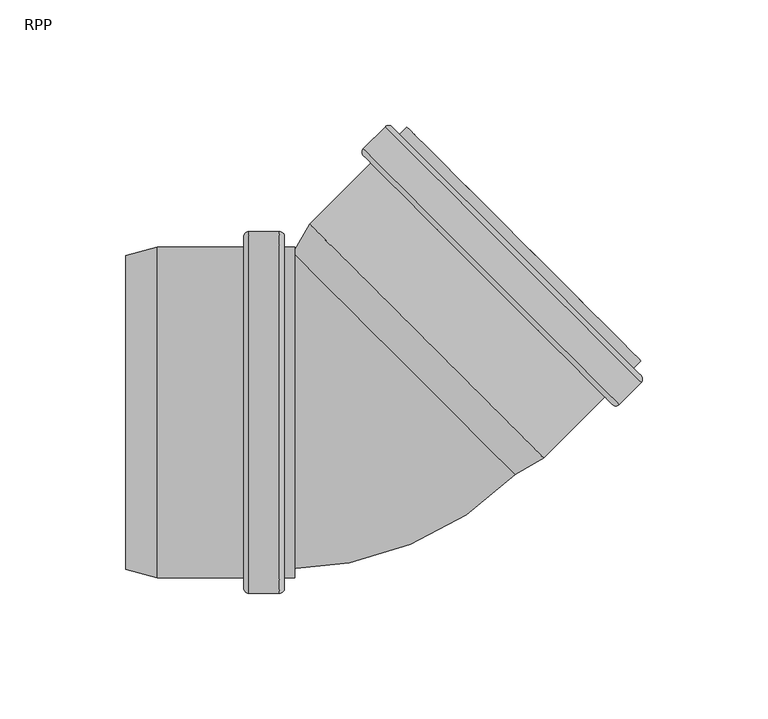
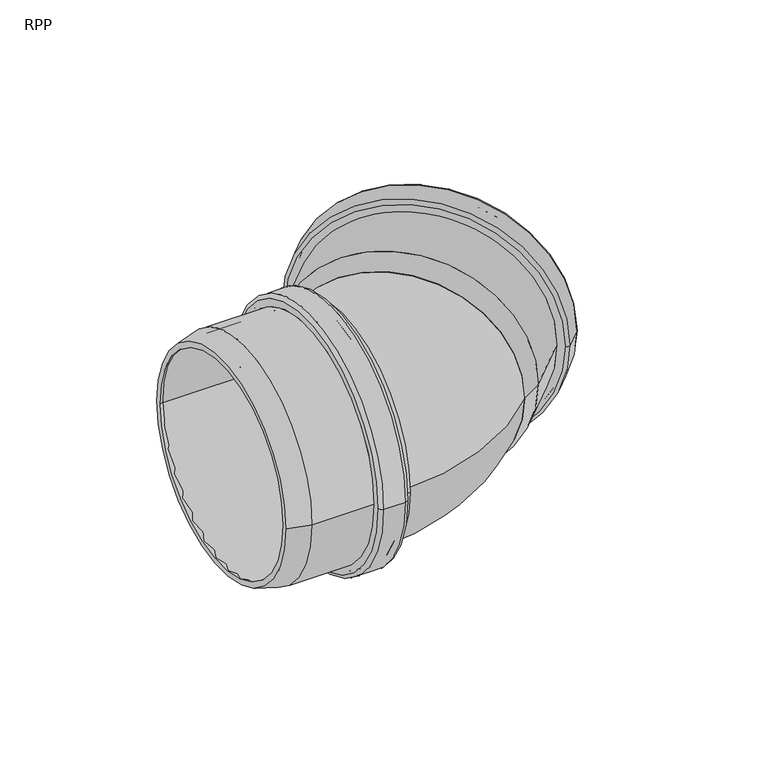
"""IFC4 building model written with IfcOpenShell, lengths in millimetres: pipe fitting geometry, RAUPIANO PLUS Bend : RPP."""

from ifc_helpers import new_model, si_unit, point, frame, origin, place, context, project, spatial, polyline, circle_curve, ellipse_curve, trimmed, source, transform, mapped, element, save
from ifc_brep_helpers import plane_surface, cylinder_surface, revolved_surface, advanced_brep


def rpp_3f5632bd(model_context):
    return source(origin(), model_context, "Body", "AdvancedBrep", [
        advanced_brep(
        [(-41.3452019, -62.8, 0.0), (-41.3452019, 62.8, 0.0), (-78.4481064, 62.8, 0.0), (-78.4481064, -62.8, 0.0), (-40.8452019, -69.0, 0.0), (-40.8452019, 69.0, 0.0), (-41.3452019, 68.5, 0.0), (-41.3452019, -68.5, 0.0), (-31.8452019, -69.0, 0.0), (-31.8452019, 69.0, 0.0), (-31.3452019, -68.5, 0.0), (-31.3452019, 68.5, 0.0), (-24.1452019, -62.8, 0.0), (-24.1452019, 62.8, 0.0), (-31.3452019, 62.8, 0.0), (-31.3452019, -62.8, 0.0), (-28.2452019, -65.9, 0.0), (-28.2452019, 65.9, 0.0), (-24.1452019, 65.9, 0.0), (-24.1452019, -65.9, 0.0), (-30.2452019, -72.1, 0.0), (-30.2452019, 72.1, 0.0), (-28.2452019, 70.1, 0.0), (-28.2452019, -70.1, 0.0), (-42.4452019, -72.1, 0.0), (-42.4452019, 72.1, 0.0), (-44.4452019, -70.1, 0.0), (-44.4452019, 70.1, 0.0), (-78.8562292, -65.9, 0.0), (-78.8562292, 65.9, 0.0), (-44.4452019, 65.9, 0.0), (-44.4452019, -65.9, 0.0), (-91.5452019, -62.5, 0.0), (-91.5452019, 62.5, 0.0), (-91.5452019, 59.2906438, 0.0), (-91.5452019, -59.2906438, 0.0)],
        [
            (0, 1, circle_curve(frame((-41.3452019, 0.0, 0.0), z_axis=(1.0, 0.0, 0.0), x_axis=(0.0, 1.0, 0.0)), 62.8)),
            (1, 2),
            (2, 3, circle_curve(frame((-78.4481064, 0.0, 0.0), z_axis=(-1.0, 0.0, 0.0), x_axis=(0.0, 1.0, 0.0)), 62.8)),
            (3, 0),
            (4, 5, circle_curve(frame((-40.8452019, 0.0, 0.0), z_axis=(1.0, 0.0, 0.0), x_axis=(0.0, 1.0, 0.0)), 69.0)),
            (5, 6, circle_curve(frame((-40.8452019, 68.5, 0.0), z_axis=(0.0, 0.0, 1.0), x_axis=(0.0, -1.0, 0.0)), 0.5)),
            (6, 7, circle_curve(frame((-41.3452019, 0.0, 0.0), z_axis=(-1.0, 0.0, 0.0), x_axis=(0.0, 1.0, 0.0)), 68.5)),
            (7, 4, circle_curve(frame((-40.8452019, -68.5, 0.0), z_axis=(0.0, 0.0, 1.0), x_axis=(0.0, 1.0, 0.0)), 0.5)),
            (8, 9, circle_curve(frame((-31.8452019, 0.0, 0.0), z_axis=(1.0, 0.0, 0.0), x_axis=(0.0, 1.0, 0.0)), 69.0)),
            (9, 5),
            (4, 8),
            (10, 11, circle_curve(frame((-31.3452019, 0.0, 0.0), z_axis=(1.0, 0.0, 0.0), x_axis=(0.0, 1.0, 0.0)), 68.5)),
            (11, 9, circle_curve(frame((-31.8452019, 68.5, 0.0), z_axis=(0.0, 0.0, 1.0), x_axis=(0.0, -1.0, 0.0)), 0.5)),
            (8, 10, circle_curve(frame((-31.8452019, -68.5, 0.0), z_axis=(0.0, 0.0, 1.0), x_axis=(0.0, 1.0, 0.0)), 0.5)),
            (12, 13, circle_curve(frame((-24.1452019, 0.0, 0.0), z_axis=(1.0, 0.0, 0.0), x_axis=(0.0, 1.0, 0.0)), 62.8)),
            (13, 14),
            (14, 15, circle_curve(frame((-31.3452019, 0.0, 0.0), z_axis=(-1.0, 0.0, 0.0), x_axis=(0.0, 1.0, 0.0)), 62.8)),
            (15, 12),
            (16, 17, circle_curve(frame((-28.2452019, 0.0, 0.0), z_axis=(1.0, 0.0, 0.0), x_axis=(0.0, 1.0, 0.0)), 65.9)),
            (17, 18),
            (18, 19, circle_curve(frame((-24.1452019, 0.0, 0.0), z_axis=(-1.0, 0.0, 0.0), x_axis=(0.0, 1.0, 0.0)), 65.9)),
            (19, 16),
            (20, 21, circle_curve(frame((-30.2452019, 0.0, 0.0), z_axis=(1.0, 0.0, 0.0), x_axis=(0.0, 1.0, 0.0)), 72.1)),
            (21, 22, circle_curve(frame((-30.2452019, 70.1, 0.0), z_axis=(0.0, 0.0, -1.0), x_axis=(0.0, -1.0, 0.0)), 2.0)),
            (22, 23, circle_curve(frame((-28.2452019, 0.0, 0.0), z_axis=(-1.0, 0.0, 0.0), x_axis=(0.0, 1.0, 0.0)), 70.1)),
            (23, 20, circle_curve(frame((-30.2452019, -70.1, 0.0), z_axis=(0.0, 0.0, -1.0), x_axis=(0.0, 1.0, 0.0)), 2.0)),
            (24, 25, circle_curve(frame((-42.4452019, 0.0, 0.0), z_axis=(1.0, 0.0, 0.0), x_axis=(0.0, 1.0, 0.0)), 72.1)),
            (25, 21),
            (20, 24),
            (26, 27, circle_curve(frame((-44.4452019, 0.0, 0.0), z_axis=(1.0, 0.0, 0.0), x_axis=(0.0, 1.0, 0.0)), 70.1)),
            (27, 25, circle_curve(frame((-42.4452019, 70.1, 0.0), z_axis=(0.0, 0.0, -1.0), x_axis=(0.0, -1.0, 0.0)), 2.0)),
            (24, 26, circle_curve(frame((-42.4452019, -70.1, 0.0), z_axis=(0.0, 0.0, -1.0), x_axis=(0.0, 1.0, 0.0)), 2.0)),
            (28, 29, circle_curve(frame((-78.8562292, 0.0, 0.0), z_axis=(1.0, 0.0, 0.0), x_axis=(0.0, 1.0, 0.0)), 65.9)),
            (29, 30),
            (30, 31, circle_curve(frame((-44.4452019, 0.0, 0.0), z_axis=(-1.0, 0.0, 0.0), x_axis=(0.0, 1.0, 0.0)), 65.9)),
            (31, 28),
            (32, 33, circle_curve(frame((-91.5452019, 0.0, 0.0), z_axis=(1.0, 0.0, 0.0), x_axis=(0.0, 1.0, 0.0)), 62.5)),
            (33, 29),
            (28, 32),
            (2, 34),
            (34, 35, circle_curve(frame((-91.5452019, 0.0, 0.0), z_axis=(-1.0, 0.0, 0.0), x_axis=(0.0, 1.0, 0.0)), 59.2906438)),
            (35, 3),
            (1, 0, circle_curve(frame((-41.3452019, 0.0, 0.0), z_axis=(1.0, 0.0, 0.0), x_axis=(0.0, -1.0, 0.0)), 62.8)),
            (3, 2, circle_curve(frame((-78.4481064, 0.0, 0.0), z_axis=(-1.0, 0.0, 0.0), x_axis=(0.0, -1.0, 0.0)), 62.8)),
            (6, 7, circle_curve(frame((-41.3452019, 0.0, 0.0), z_axis=(1.0, 0.0, 0.0), x_axis=(0.0, -1.0, 0.0)), 68.5)),
            (5, 4, circle_curve(frame((-40.8452019, 0.0, 0.0), z_axis=(1.0, 0.0, 0.0), x_axis=(0.0, -1.0, 0.0)), 69.0)),
            (9, 8, circle_curve(frame((-31.8452019, 0.0, 0.0), z_axis=(1.0, 0.0, 0.0), x_axis=(0.0, -1.0, 0.0)), 69.0)),
            (11, 10, circle_curve(frame((-31.3452019, 0.0, 0.0), z_axis=(1.0, 0.0, 0.0), x_axis=(0.0, -1.0, 0.0)), 68.5)),
            (14, 15, circle_curve(frame((-31.3452019, 0.0, 0.0), z_axis=(1.0, 0.0, 0.0), x_axis=(0.0, -1.0, 0.0)), 62.8)),
            (13, 12, circle_curve(frame((-24.1452019, 0.0, 0.0), z_axis=(1.0, 0.0, 0.0), x_axis=(0.0, -1.0, 0.0)), 62.8)),
            (18, 19, circle_curve(frame((-24.1452019, 0.0, 0.0), z_axis=(1.0, 0.0, 0.0), x_axis=(0.0, -1.0, 0.0)), 65.9)),
            (17, 16, circle_curve(frame((-28.2452019, 0.0, 0.0), z_axis=(1.0, 0.0, 0.0), x_axis=(0.0, -1.0, 0.0)), 65.9)),
            (22, 23, circle_curve(frame((-28.2452019, 0.0, 0.0), z_axis=(1.0, 0.0, 0.0), x_axis=(0.0, -1.0, 0.0)), 70.1)),
            (21, 20, circle_curve(frame((-30.2452019, 0.0, 0.0), z_axis=(1.0, 0.0, 0.0), x_axis=(0.0, -1.0, 0.0)), 72.1)),
            (25, 24, circle_curve(frame((-42.4452019, 0.0, 0.0), z_axis=(1.0, 0.0, 0.0), x_axis=(0.0, -1.0, 0.0)), 72.1)),
            (27, 26, circle_curve(frame((-44.4452019, 0.0, 0.0), z_axis=(1.0, 0.0, 0.0), x_axis=(0.0, -1.0, 0.0)), 70.1)),
            (30, 31, circle_curve(frame((-44.4452019, 0.0, 0.0), z_axis=(1.0, 0.0, 0.0), x_axis=(0.0, -1.0, 0.0)), 65.9)),
            (29, 28, circle_curve(frame((-78.8562292, 0.0, 0.0), z_axis=(1.0, 0.0, 0.0), x_axis=(0.0, -1.0, 0.0)), 65.9)),
            (33, 32, circle_curve(frame((-91.5452019, 0.0, 0.0), z_axis=(1.0, 0.0, 0.0), x_axis=(0.0, -1.0, 0.0)), 62.5)),
            (34, 35, circle_curve(frame((-91.5452019, 0.0, 0.0), z_axis=(1.0, 0.0, 0.0), x_axis=(0.0, -1.0, 0.0)), 59.2906438)),
        ],
        [
            revolved_surface(polyline([(-78.4481064, 62.8, 0.0), (-41.3452019, 62.8, 0.0)]), (-91.5452019, 0.0, 0.0), (-1.0, 0.0, 0.0)),
            revolved_surface(trimmed(ellipse_curve(frame((-40.8452019, 68.5, 0.0), z_axis=(0.0, 0.0, -1.0), x_axis=(0.0, -1.0, 0.0)), 0.5, 0.5), [point((-41.3452019, 68.5, 0.0))], [point((-40.8452019, 69.0, 0.0))], True, "CARTESIAN"), (-91.5452019, 0.0, 0.0), (-1.0, 0.0, 0.0)),
            revolved_surface(polyline([(-40.8452019, 69.0, 0.0), (-31.8452019, 69.0, 0.0)]), (-91.5452019, 0.0, 0.0), (-1.0, 0.0, 0.0)),
            revolved_surface(trimmed(ellipse_curve(frame((-31.8452019, 68.5, 0.0), z_axis=(0.0, 0.0, -1.0), x_axis=(0.0, -1.0, 0.0)), 0.5, 0.5), [point((-31.8452019, 69.0, 0.0))], [point((-31.3452019, 68.5, 0.0))], True, "CARTESIAN"), (-91.5452019, 0.0, 0.0), (-1.0, 0.0, 0.0)),
            revolved_surface(polyline([(-31.3452019, 62.8, 0.0), (-24.145201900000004, 62.8, 0.0)]), (-91.5452019, 0.0, 0.0), (-1.0, 0.0, 0.0)),
            cylinder_surface(frame((-91.5452019, 0.0, 0.0), z_axis=(-1.0, 0.0, 0.0), x_axis=(0.0, 1.0, 0.0)), 65.9),
            revolved_surface(trimmed(ellipse_curve(frame((-30.2452019, 70.1, 0.0), z_axis=(0.0, 0.0, 1.0), x_axis=(0.0, -1.0, 0.0)), 2.0, 2.0), [point((-28.2452019, 70.1, 0.0))], [point((-30.2452019, 72.1, 0.0))], True, "CARTESIAN"), (-91.5452019, 0.0, 0.0), (-1.0, 0.0, 0.0)),
            cylinder_surface(frame((-91.5452019, 0.0, 0.0), z_axis=(-1.0, 0.0, 0.0), x_axis=(0.0, 1.0, 0.0)), 72.1),
            revolved_surface(trimmed(ellipse_curve(frame((-42.4452019, 70.1, 0.0), z_axis=(0.0, 0.0, 1.0), x_axis=(0.0, -1.0, 0.0)), 2.0, 2.0), [point((-42.4452019, 72.1, 0.0))], [point((-44.4452019, 70.1, 0.0))], True, "CARTESIAN"), (-91.5452019, 0.0, 0.0), (-1.0, 0.0, 0.0)),
            revolved_surface(polyline([(-78.8562292, 65.9, 0.0), (-91.5452019, 62.5, 0.0)]), (-91.5452019, 0.0, 0.0), (-1.0, 0.0, 0.0)),
            revolved_surface(polyline([(-91.5452019, 59.2906438, 0.0), (-78.4481064, 62.8, 0.0)]), (-91.5452019, 0.0, 0.0), (-1.0, 0.0, 0.0)),
            revolved_surface(polyline([(-78.4481064, -62.8, 0.0), (-41.3452019, -62.8, 0.0)]), (-91.5452019, 0.0, 0.0), (-1.0, 0.0, 0.0)),
            plane_surface(frame((-41.3452019, 0.0, 0.0), z_axis=(1.0, 0.0, 0.0), x_axis=(0.0, -1.0, 0.0))),
            revolved_surface(trimmed(ellipse_curve(frame((-40.8452019, -68.5, 0.0), z_axis=(0.0, 0.0, 1.0), x_axis=(0.0, 1.0, 0.0)), 0.5, 0.5), [point((-41.3452019, -68.5, 0.0))], [point((-40.8452019, -69.0, 0.0))], True, "CARTESIAN"), (-91.5452019, 0.0, 0.0), (-1.0, 0.0, 0.0)),
            revolved_surface(polyline([(-40.8452019, -69.0, 0.0), (-31.8452019, -69.0, 0.0)]), (-91.5452019, 0.0, 0.0), (-1.0, 0.0, 0.0)),
            revolved_surface(trimmed(ellipse_curve(frame((-31.8452019, -68.5, 0.0), z_axis=(0.0, 0.0, 1.0), x_axis=(0.0, 1.0, 0.0)), 0.5, 0.5), [point((-31.8452019, -69.0, 0.0))], [point((-31.3452019, -68.5, 0.0))], True, "CARTESIAN"), (-91.5452019, 0.0, 0.0), (-1.0, 0.0, 0.0)),
            plane_surface(frame((-31.3452019, 0.0, 0.0), z_axis=(-1.0, 0.0, 0.0), x_axis=(0.0, -1.0, 0.0))),
            revolved_surface(polyline([(-31.3452019, -62.8, 0.0), (-24.145201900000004, -62.8, 0.0)]), (-91.5452019, 0.0, 0.0), (-1.0, 0.0, 0.0)),
            plane_surface(frame((-24.1452019, 0.0, 0.0), z_axis=(1.0, 0.0, 0.0), x_axis=(0.0, -1.0, 0.0))),
            cylinder_surface(frame((-91.5452019, 0.0, 0.0), z_axis=(-1.0, 0.0, 0.0), x_axis=(0.0, -1.0, 0.0)), 65.9),
            plane_surface(frame((-28.2452019, 0.0, 0.0), z_axis=(1.0, 0.0, 0.0), x_axis=(0.0, -1.0, 0.0))),
            revolved_surface(trimmed(ellipse_curve(frame((-30.2452019, -70.1, 0.0), z_axis=(0.0, 0.0, -1.0), x_axis=(0.0, 1.0, 0.0)), 2.0, 2.0), [point((-28.2452019, -70.1, 0.0))], [point((-30.2452019, -72.1, 0.0))], True, "CARTESIAN"), (-91.5452019, 0.0, 0.0), (-1.0, 0.0, 0.0)),
            cylinder_surface(frame((-91.5452019, 0.0, 0.0), z_axis=(-1.0, 0.0, 0.0), x_axis=(0.0, -1.0, 0.0)), 72.1),
            revolved_surface(trimmed(ellipse_curve(frame((-42.4452019, -70.1, 0.0), z_axis=(0.0, 0.0, -1.0), x_axis=(0.0, 1.0, 0.0)), 2.0, 2.0), [point((-42.4452019, -72.1, 0.0))], [point((-44.4452019, -70.1, 0.0))], True, "CARTESIAN"), (-91.5452019, 0.0, 0.0), (-1.0, 0.0, 0.0)),
            plane_surface(frame((-44.4452019, 0.0, 0.0), z_axis=(-1.0, 0.0, 0.0), x_axis=(0.0, -1.0, 0.0))),
            revolved_surface(polyline([(-78.8562292, -65.9, 0.0), (-91.5452019, -62.5, 0.0)]), (-91.5452019, 0.0, 0.0), (-1.0, 0.0, 0.0)),
            plane_surface(frame((-91.5452019, 0.0, 0.0), z_axis=(-1.0, 0.0, 0.0), x_axis=(0.0, -1.0, 0.0))),
            revolved_surface(polyline([(-91.5452019, -59.2906438, 0.0), (-78.4481064, -62.8, 0.0)]), (-91.5452019, 0.0, 0.0), (-1.0, 0.0, 0.0)),
        ],
        [
            (0, [[1, 2, 3, 4]]),
            (1, [[5, 6, 7, 8]]),
            (2, [[9, 10, -5, 11]]),
            (3, [[12, 13, -9, 14]]),
            (4, [[15, 16, 17, 18]]),
            (5, [[19, 20, 21, 22]]),
            (6, [[23, 24, 25, 26]]),
            (7, [[27, 28, -23, 29]]),
            (8, [[30, 31, -27, 32]]),
            (5, [[33, 34, 35, 36]]),
            (9, [[37, 38, -33, 39]]),
            (10, [[-3, 40, 41, 42]]),
            (11, [[43, -4, 44, -2]]),
            (12, [[45, -7], [-43, -1]]),
            (13, [[46, -8, -45, -6]]),
            (14, [[47, -11, -46, -10]]),
            (15, [[48, -14, -47, -13]]),
            (16, [[-48, -12], [49, -17]]),
            (17, [[50, -18, -49, -16]]),
            (18, [[51, -21], [-50, -15]]),
            (19, [[52, -22, -51, -20]]),
            (20, [[53, -25], [-52, -19]]),
            (21, [[54, -26, -53, -24]]),
            (22, [[55, -29, -54, -28]]),
            (23, [[56, -32, -55, -31]]),
            (24, [[-56, -30], [57, -35]]),
            (19, [[58, -36, -57, -34]]),
            (25, [[59, -39, -58, -38]]),
            (26, [[-59, -37], [60, -41]]),
            (27, [[-44, -42, -60, -40]]),
        ],
    ),
        advanced_brep(
        [(61.4022154, -22.4474173, 0.0), (-22.4474173, 61.4022154, 0.0), (-15.6678618, 73.1447499, 0.0), (73.1447499, -15.6678618, 0.0), (75.0481946, -18.1484792, 0.0), (-18.1484792, 75.0481946, 0.0), (-24.7167748, 63.6715729, 0.0), (63.6715729, -24.7167748, 0.0), (99.3804653, 6.1837916, 0.0), (6.1837916, 99.3804653, 0.0), (113.8054437, 11.8406458, 0.0), (11.8406458, 113.8054437, 0.0), (3.2139431, 105.1787409, 0.0), (105.1787409, 3.2139431, 0.0), (113.734733, 20.5380592, 0.0), (20.5380592, 113.734733, 0.0), (17.6389214, 110.8355952, 0.0), (110.8355952, 17.6389214, 0.0), (106.4515331, 17.6389214, 0.0), (17.6389214, 106.4515331, 0.0), (22.7300902, 111.542702, 0.0), (111.542702, 22.7300902, 0.0), (104.1180808, 6.537345, 0.0), (6.537345, 104.1180808, 0.0), (12.901306, 110.4820418, 0.0), (110.4820418, 12.901306, 0.0), (10.5678536, 99.3804653, 0.0), (99.3804653, 10.5678536, 0.0), (3.2139431, 102.3503138, 0.0), (102.3503138, 3.2139431, 0.0), (113.8054437, 14.6690729, 0.0), (14.6690729, 113.8054437, 0.0), (13.6084128, 110.4820418, 0.0), (110.4820418, 13.6084128, 0.0), (103.410974, 6.537345, 0.0), (6.537345, 103.410974, 0.0)],
        [
            (0, 1, circle_curve(frame((19.4773991, 19.4773991, 0.0), z_axis=(-0.7071067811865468, -0.7071067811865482, 0.0), x_axis=(-0.7071067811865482, 0.7071067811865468, 0.0)), 59.2906438)),
            (1, 2),
            (2, 3, circle_curve(frame((28.7384441, 28.7384441, 0.0), z_axis=(0.7071067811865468, 0.7071067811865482, 0.0), x_axis=(-0.7071067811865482, 0.7071067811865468, 0.0)), 62.8)),
            (3, 0),
            (4, 5, circle_curve(frame((28.4498577, 28.4498577, 0.0), z_axis=(-0.7071067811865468, -0.7071067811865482, 0.0), x_axis=(-0.7071067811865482, 0.7071067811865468, 0.0)), 65.9)),
            (5, 6),
            (6, 7, circle_curve(frame((19.4773991, 19.4773991, 0.0), z_axis=(0.7071067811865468, 0.7071067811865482, 0.0), x_axis=(-0.7071067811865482, 0.7071067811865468, 0.0)), 62.5)),
            (7, 4),
            (8, 9, circle_curve(frame((52.7821284, 52.7821284, 0.0), z_axis=(-0.7071067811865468, -0.7071067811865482, 0.0), x_axis=(-0.7071067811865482, 0.7071067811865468, 0.0)), 65.9)),
            (9, 5),
            (4, 8),
            (10, 11, circle_curve(frame((62.8230447, 62.8230447, 0.0), z_axis=(-0.7071067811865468, -0.7071067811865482, 0.0), x_axis=(-0.7071067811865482, 0.7071067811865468, 0.0)), 72.1)),
            (11, 12),
            (12, 13, circle_curve(frame((54.196342, 54.196342, 0.0), z_axis=(0.7071067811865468, 0.7071067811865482, 0.0), x_axis=(-0.7071067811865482, 0.7071067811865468, 0.0)), 72.1)),
            (13, 10),
            (14, 15, circle_curve(frame((67.1363961, 67.1363961, 0.0), z_axis=(-0.7071067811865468, -0.7071067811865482, 0.0), x_axis=(-0.7071067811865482, 0.7071067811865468, 0.0)), 65.9)),
            (15, 16),
            (16, 17, circle_curve(frame((64.2372583, 64.2372583, 0.0), z_axis=(0.7071067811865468, 0.7071067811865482, 0.0), x_axis=(-0.7071067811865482, 0.7071067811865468, 0.0)), 65.9)),
            (17, 14),
            (18, 19, circle_curve(frame((62.0452273, 62.0452273, 0.0), z_axis=(-0.7071067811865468, -0.7071067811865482, 0.0), x_axis=(-0.7071067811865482, 0.7071067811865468, 0.0)), 62.8)),
            (19, 20),
            (20, 21, circle_curve(frame((67.1363961, 67.1363961, 0.0), z_axis=(0.7071067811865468, 0.7071067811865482, 0.0), x_axis=(-0.7071067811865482, 0.7071067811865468, 0.0)), 62.8)),
            (21, 18),
            (22, 23, circle_curve(frame((55.3277129, 55.3277129, 0.0), z_axis=(-0.7071067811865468, -0.7071067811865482, 0.0), x_axis=(-0.7071067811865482, 0.7071067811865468, 0.0)), 69.0)),
            (23, 24),
            (24, 25, circle_curve(frame((61.6916739, 61.6916739, 0.0), z_axis=(0.7071067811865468, 0.7071067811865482, 0.0), x_axis=(-0.7071067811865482, 0.7071067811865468, 0.0)), 69.0)),
            (25, 22),
            (2, 26),
            (26, 27, circle_curve(frame((54.9741595, 54.9741595, 0.0), z_axis=(0.7071067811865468, 0.7071067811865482, 0.0), x_axis=(-0.7071067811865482, 0.7071067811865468, 0.0)), 62.8)),
            (27, 3),
            (1, 0, circle_curve(frame((19.4773991, 19.4773991, 0.0), z_axis=(-0.7071067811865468, -0.7071067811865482, 0.0), x_axis=(0.7071067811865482, -0.7071067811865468, 0.0)), 59.2906438)),
            (3, 2, circle_curve(frame((28.7384441, 28.7384441, 0.0), z_axis=(0.7071067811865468, 0.7071067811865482, 0.0), x_axis=(0.7071067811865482, -0.7071067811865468, 0.0)), 62.8)),
            (6, 7, circle_curve(frame((19.4773991, 19.4773991, 0.0), z_axis=(-0.7071067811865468, -0.7071067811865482, 0.0), x_axis=(0.7071067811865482, -0.7071067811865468, 0.0)), 62.5)),
            (5, 4, circle_curve(frame((28.4498577, 28.4498577, 0.0), z_axis=(-0.7071067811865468, -0.7071067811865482, 0.0), x_axis=(0.7071067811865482, -0.7071067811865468, 0.0)), 65.9)),
            (9, 8, circle_curve(frame((52.7821284, 52.7821284, 0.0), z_axis=(-0.7071067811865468, -0.7071067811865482, 0.0), x_axis=(0.7071067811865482, -0.7071067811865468, 0.0)), 65.9)),
            (28, 29, circle_curve(frame((52.7821284, 52.7821284, 0.0), z_axis=(-0.7071067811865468, -0.7071067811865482, 0.0), x_axis=(0.7071067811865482, -0.7071067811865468, 0.0)), 70.1)),
            (29, 28, circle_curve(frame((52.7821284, 52.7821284, 0.0), z_axis=(-0.7071067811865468, -0.7071067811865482, 0.0), x_axis=(-0.7071067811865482, 0.7071067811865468, 0.0)), 70.1)),
            (11, 10, circle_curve(frame((62.8230447, 62.8230447, 0.0), z_axis=(-0.7071067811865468, -0.7071067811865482, 0.0), x_axis=(0.7071067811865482, -0.7071067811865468, 0.0)), 72.1)),
            (13, 12, circle_curve(frame((54.196342, 54.196342, 0.0), z_axis=(0.7071067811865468, 0.7071067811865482, 0.0), x_axis=(0.7071067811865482, -0.7071067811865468, 0.0)), 72.1)),
            (30, 31, circle_curve(frame((64.2372583, 64.2372583, 0.0), z_axis=(0.7071067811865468, 0.7071067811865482, 0.0), x_axis=(0.7071067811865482, -0.7071067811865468, 0.0)), 70.1)),
            (31, 30, circle_curve(frame((64.2372583, 64.2372583, 0.0), z_axis=(0.7071067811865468, 0.7071067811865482, 0.0), x_axis=(-0.7071067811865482, 0.7071067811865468, 0.0)), 70.1)),
            (16, 17, circle_curve(frame((64.2372583, 64.2372583, 0.0), z_axis=(-0.7071067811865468, -0.7071067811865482, 0.0), x_axis=(0.7071067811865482, -0.7071067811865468, 0.0)), 65.9)),
            (15, 14, circle_curve(frame((67.1363961, 67.1363961, 0.0), z_axis=(-0.7071067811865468, -0.7071067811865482, 0.0), x_axis=(0.7071067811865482, -0.7071067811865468, 0.0)), 65.9)),
            (20, 21, circle_curve(frame((67.1363961, 67.1363961, 0.0), z_axis=(-0.7071067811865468, -0.7071067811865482, 0.0), x_axis=(0.7071067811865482, -0.7071067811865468, 0.0)), 62.8)),
            (19, 18, circle_curve(frame((62.0452273, 62.0452273, 0.0), z_axis=(-0.7071067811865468, -0.7071067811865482, 0.0), x_axis=(0.7071067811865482, -0.7071067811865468, 0.0)), 62.8)),
            (32, 33, circle_curve(frame((62.0452273, 62.0452273, 0.0), z_axis=(-0.7071067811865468, -0.7071067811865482, 0.0), x_axis=(0.7071067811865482, -0.7071067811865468, 0.0)), 68.5)),
            (33, 32, circle_curve(frame((62.0452273, 62.0452273, 0.0), z_axis=(-0.7071067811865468, -0.7071067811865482, 0.0), x_axis=(-0.7071067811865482, 0.7071067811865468, 0.0)), 68.5)),
            (23, 22, circle_curve(frame((55.3277129, 55.3277129, 0.0), z_axis=(-0.7071067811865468, -0.7071067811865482, 0.0), x_axis=(0.7071067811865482, -0.7071067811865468, 0.0)), 69.0)),
            (25, 24, circle_curve(frame((61.6916739, 61.6916739, 0.0), z_axis=(0.7071067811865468, 0.7071067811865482, 0.0), x_axis=(0.7071067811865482, -0.7071067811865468, 0.0)), 69.0)),
            (34, 35, circle_curve(frame((54.9741595, 54.9741595, 0.0), z_axis=(0.7071067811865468, 0.7071067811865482, 0.0), x_axis=(0.7071067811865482, -0.7071067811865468, 0.0)), 68.5)),
            (35, 34, circle_curve(frame((54.9741595, 54.9741595, 0.0), z_axis=(0.7071067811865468, 0.7071067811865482, 0.0), x_axis=(-0.7071067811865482, 0.7071067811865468, 0.0)), 68.5)),
            (26, 27, circle_curve(frame((54.9741595, 54.9741595, 0.0), z_axis=(-0.7071067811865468, -0.7071067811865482, 0.0), x_axis=(0.7071067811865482, -0.7071067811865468, 0.0)), 62.8)),
            (12, 28, circle_curve(frame((4.6281566, 103.7645274, 0.0), z_axis=(0.0, 0.0, 1.0), x_axis=(0.7071067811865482, -0.7071067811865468, 0.0)), 2.0)),
            (29, 13, circle_curve(frame((103.7645274, 4.6281566, 0.0), z_axis=(0.0, 0.0, 1.0), x_axis=(-0.7071067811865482, 0.7071067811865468, 0.0)), 2.0)),
            (31, 11, circle_curve(frame((13.2548594, 112.3912301, 0.0), z_axis=(0.0, 0.0, 1.0), x_axis=(0.7071067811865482, -0.7071067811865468, 0.0)), 2.0)),
            (10, 30, circle_curve(frame((112.3912301, 13.2548594, 0.0), z_axis=(0.0, 0.0, 1.0), x_axis=(-0.7071067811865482, 0.7071067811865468, 0.0)), 2.0)),
            (24, 32, circle_curve(frame((13.2548594, 110.1284884, 0.0), z_axis=(0.0, 0.0, -1.0), x_axis=(0.7071067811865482, -0.7071067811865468, 0.0)), 0.5)),
            (33, 25, circle_curve(frame((110.1284884, 13.2548594, 0.0), z_axis=(0.0, 0.0, -1.0), x_axis=(-0.7071067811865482, 0.7071067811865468, 0.0)), 0.5)),
            (35, 23, circle_curve(frame((6.8908983, 103.7645274, 0.0), z_axis=(0.0, 0.0, -1.0), x_axis=(0.7071067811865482, -0.7071067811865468, 0.0)), 0.5)),
            (22, 34, circle_curve(frame((103.7645274, 6.8908983, 0.0), z_axis=(0.0, 0.0, -1.0), x_axis=(-0.7071067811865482, 0.7071067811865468, 0.0)), 0.5)),
        ],
        [
            revolved_surface(polyline([(-15.6678618, 73.1447499, 0.0), (-22.4474173, 61.4022154, 0.0)]), (19.4773991, 19.4773991, 0.0), (0.7071067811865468, 0.7071067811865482, 0.0)),
            revolved_surface(polyline([(-24.7167748, 63.6715729, 0.0), (-18.1484792, 75.0481946, 0.0)]), (19.4773991, 19.4773991, 0.0), (0.7071067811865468, 0.7071067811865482, 0.0)),
            cylinder_surface(frame((19.4773991, 19.4773991, 0.0), z_axis=(0.7071067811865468, 0.7071067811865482, 0.0), x_axis=(-0.7071067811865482, 0.7071067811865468, 0.0)), 65.9),
            cylinder_surface(frame((19.4773991, 19.4773991, 0.0), z_axis=(0.7071067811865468, 0.7071067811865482, 0.0), x_axis=(-0.7071067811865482, 0.7071067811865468, 0.0)), 72.1),
            revolved_surface(polyline([(22.730090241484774, 111.54270195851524, 0.0), (17.638921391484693, 106.45153310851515, 0.0)]), (19.4773991, 19.4773991, 0.0), (0.7071067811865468, 0.7071067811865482, 0.0)),
            revolved_surface(polyline([(12.901305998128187, 110.48204180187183, 0.0), (6.537344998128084, 104.11808080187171, 0.0)]), (19.4773991, 19.4773991, 0.0), (0.7071067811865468, 0.7071067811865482, 0.0)),
            revolved_surface(polyline([(10.567853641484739, 99.38046535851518, 0.0), (-15.66786180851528, 73.14474990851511, 0.0)]), (19.4773991, 19.4773991, 0.0), (0.7071067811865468, 0.7071067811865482, 0.0)),
            revolved_surface(polyline([(73.1447499, -15.6678618, 0.0), (61.4022154, -22.4474173, 0.0)]), (19.4773991, 19.4773991, 0.0), (0.7071067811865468, 0.7071067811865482, 0.0)),
            plane_surface(frame((19.4773991, 19.4773991, 0.0), z_axis=(-0.7071067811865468, -0.7071067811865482, 0.0), x_axis=(0.7071067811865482, -0.7071067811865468, 0.0))),
            revolved_surface(polyline([(63.6715729, -24.7167748, 0.0), (75.0481946, -18.1484792, 0.0)]), (19.4773991, 19.4773991, 0.0), (0.7071067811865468, 0.7071067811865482, 0.0)),
            cylinder_surface(frame((19.4773991, 19.4773991, 0.0), z_axis=(0.7071067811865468, 0.7071067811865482, 0.0), x_axis=(0.7071067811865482, -0.7071067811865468, 0.0)), 65.9),
            plane_surface(frame((52.7821284, 52.7821284, 0.0), z_axis=(-0.7071067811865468, -0.7071067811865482, 0.0), x_axis=(0.7071067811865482, -0.7071067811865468, 0.0))),
            cylinder_surface(frame((19.4773991, 19.4773991, 0.0), z_axis=(0.7071067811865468, 0.7071067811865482, 0.0), x_axis=(0.7071067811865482, -0.7071067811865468, 0.0)), 72.1),
            plane_surface(frame((64.2372583, 64.2372583, 0.0), z_axis=(0.7071067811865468, 0.7071067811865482, 0.0), x_axis=(0.7071067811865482, -0.7071067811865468, 0.0))),
            plane_surface(frame((67.1363961, 67.1363961, 0.0), z_axis=(0.7071067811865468, 0.7071067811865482, 0.0), x_axis=(0.7071067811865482, -0.7071067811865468, 0.0))),
            revolved_surface(polyline([(111.54270195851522, 22.73009024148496, 0.0), (106.45153310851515, 17.638921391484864, 0.0)]), (19.4773991, 19.4773991, 0.0), (0.7071067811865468, 0.7071067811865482, 0.0)),
            plane_surface(frame((62.0452273, 62.0452273, 0.0), z_axis=(-0.7071067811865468, -0.7071067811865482, 0.0), x_axis=(0.7071067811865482, -0.7071067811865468, 0.0))),
            revolved_surface(polyline([(110.48204180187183, 12.901305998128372, 0.0), (104.11808080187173, 6.537344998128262, 0.0)]), (19.4773991, 19.4773991, 0.0), (0.7071067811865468, 0.7071067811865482, 0.0)),
            plane_surface(frame((54.9741595, 54.9741595, 0.0), z_axis=(0.7071067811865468, 0.7071067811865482, 0.0), x_axis=(0.7071067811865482, -0.7071067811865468, 0.0))),
            revolved_surface(polyline([(99.38046535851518, 10.567853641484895, 0.0), (73.14474990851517, -15.667861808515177, 0.0)]), (19.4773991, 19.4773991, 0.0), (0.7071067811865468, 0.7071067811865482, 0.0)),
            revolved_surface(trimmed(ellipse_curve(frame((4.6281566, 103.7645274, 0.0), z_axis=(0.0, 0.0, -1.0), x_axis=(0.7071067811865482, -0.7071067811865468, 0.0)), 2.0, 2.0), [point((3.2139431, 102.3503138, 0.0))], [point((3.2139431, 105.1787409, 0.0))], True, "CARTESIAN"), (19.4773991, 19.4773991, 0.0), (0.7071067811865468, 0.7071067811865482, 0.0)),
            revolved_surface(trimmed(ellipse_curve(frame((13.2548594, 112.3912301, 0.0), z_axis=(0.0, 0.0, -1.0), x_axis=(0.7071067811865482, -0.7071067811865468, 0.0)), 2.0, 2.0), [point((11.8406458, 113.8054437, 0.0))], [point((14.6690729, 113.8054437, 0.0))], True, "CARTESIAN"), (19.4773991, 19.4773991, 0.0), (0.7071067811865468, 0.7071067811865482, 0.0)),
            revolved_surface(trimmed(ellipse_curve(frame((13.2548594, 110.1284884, 0.0), z_axis=(0.0, 0.0, 1.0), x_axis=(0.7071067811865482, -0.7071067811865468, 0.0)), 0.5, 0.5), [point((13.6084128, 110.4820418, 0.0))], [point((12.901306, 110.4820418, 0.0))], True, "CARTESIAN"), (19.4773991, 19.4773991, 0.0), (0.7071067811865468, 0.7071067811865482, 0.0)),
            revolved_surface(trimmed(ellipse_curve(frame((6.8908983, 103.7645274, 0.0), z_axis=(0.0, 0.0, 1.0), x_axis=(0.7071067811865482, -0.7071067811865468, 0.0)), 0.5, 0.5), [point((6.537345, 104.1180808, 0.0))], [point((6.537345, 103.410974, 0.0))], True, "CARTESIAN"), (19.4773991, 19.4773991, 0.0), (0.7071067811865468, 0.7071067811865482, 0.0)),
            revolved_surface(trimmed(ellipse_curve(frame((103.7645274, 4.6281566, 0.0), z_axis=(0.0, 0.0, 1.0), x_axis=(-0.7071067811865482, 0.7071067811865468, 0.0)), 2.0, 2.0), [point((102.3503138, 3.2139431, 0.0))], [point((105.1787409, 3.2139431, 0.0))], True, "CARTESIAN"), (19.4773991, 19.4773991, 0.0), (0.7071067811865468, 0.7071067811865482, 0.0)),
            revolved_surface(trimmed(ellipse_curve(frame((112.3912301, 13.2548594, 0.0), z_axis=(0.0, 0.0, 1.0), x_axis=(-0.7071067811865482, 0.7071067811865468, 0.0)), 2.0, 2.0), [point((113.8054437, 11.8406458, 0.0))], [point((113.8054437, 14.6690729, 0.0))], True, "CARTESIAN"), (19.4773991, 19.4773991, 0.0), (0.7071067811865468, 0.7071067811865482, 0.0)),
            revolved_surface(trimmed(ellipse_curve(frame((110.1284884, 13.2548594, 0.0), z_axis=(0.0, 0.0, -1.0), x_axis=(-0.7071067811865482, 0.7071067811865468, 0.0)), 0.5, 0.5), [point((110.4820418, 13.6084128, 0.0))], [point((110.4820418, 12.901306, 0.0))], True, "CARTESIAN"), (19.4773991, 19.4773991, 0.0), (0.7071067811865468, 0.7071067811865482, 0.0)),
            revolved_surface(trimmed(ellipse_curve(frame((103.7645274, 6.8908983, 0.0), z_axis=(0.0, 0.0, -1.0), x_axis=(-0.7071067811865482, 0.7071067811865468, 0.0)), 0.5, 0.5), [point((104.1180808, 6.537345, 0.0))], [point((103.410974, 6.537345, 0.0))], True, "CARTESIAN"), (19.4773991, 19.4773991, 0.0), (0.7071067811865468, 0.7071067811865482, 0.0)),
        ],
        [
            (0, [[1, 2, 3, 4]]),
            (1, [[5, 6, 7, 8]]),
            (2, [[9, 10, -5, 11]]),
            (3, [[12, 13, 14, 15]]),
            (2, [[16, 17, 18, 19]]),
            (4, [[20, 21, 22, 23]]),
            (5, [[24, 25, 26, 27]]),
            (6, [[-3, 28, 29, 30]]),
            (7, [[31, -4, 32, -2]]),
            (8, [[33, -7], [-31, -1]]),
            (9, [[34, -8, -33, -6]]),
            (10, [[35, -11, -34, -10]]),
            (11, [[36, 37], [-35, -9]]),
            (12, [[38, -15, 39, -13]]),
            (13, [[40, 41], [42, -18]]),
            (10, [[43, -19, -42, -17]]),
            (14, [[-43, -16], [44, -22]]),
            (15, [[45, -23, -44, -21]]),
            (16, [[46, 47], [-45, -20]]),
            (17, [[48, -27, 49, -25]]),
            (18, [[50, 51], [52, -29]]),
            (19, [[-32, -30, -52, -28]]),
            (20, [[-14, 53, -37, 54]]),
            (21, [[-41, 55, -12, 56]]),
            (22, [[-26, 57, -47, 58]]),
            (23, [[-51, 59, -24, 60]]),
            (24, [[-39, -54, -36, -53]]),
            (25, [[-40, -56, -38, -55]]),
            (26, [[-49, -58, -46, -57]]),
            (27, [[-50, -60, -48, -59]]),
        ],
    ),
        advanced_brep(
        [(-27.5452019, 59.4, 0.0), (-27.5452019, -59.4, 0.0), (-91.5452019, -59.4, 0.0), (-91.5452019, 59.4, 0.0), (-82.961485, 62.5, 0.0), (-82.961485, -62.5, 0.0), (-27.5452019, -62.5, 0.0), (-27.5452019, 62.5, 0.0), (-91.5452019, 60.2, 0.0), (-91.5452019, -60.2, 0.0)],
        [
            (0, 1, circle_curve(frame((-27.5452019, 0.0, 0.0), z_axis=(1.0, 0.0, 0.0), x_axis=(0.0, -1.0, 0.0)), 59.4)),
            (1, 2),
            (2, 3, circle_curve(frame((-91.5452019, 0.0, 0.0), z_axis=(-1.0, 0.0, 0.0), x_axis=(0.0, -1.0, 0.0)), 59.4)),
            (3, 0),
            (4, 5, circle_curve(frame((-82.961485, 0.0, 0.0), z_axis=(1.0, 0.0, 0.0), x_axis=(0.0, -1.0, 0.0)), 62.5)),
            (5, 6),
            (6, 7, circle_curve(frame((-27.5452019, 0.0, 0.0), z_axis=(-1.0, 0.0, 0.0), x_axis=(0.0, -1.0, 0.0)), 62.5)),
            (7, 4),
            (8, 9, circle_curve(frame((-91.5452019, 0.0, 0.0), z_axis=(1.0, 0.0, 0.0), x_axis=(0.0, -1.0, 0.0)), 60.2)),
            (9, 5),
            (4, 8),
            (1, 0, circle_curve(frame((-27.5452019, 0.0, 0.0), z_axis=(1.0, 0.0, 0.0), x_axis=(0.0, 1.0, 0.0)), 59.4)),
            (3, 2, circle_curve(frame((-91.5452019, 0.0, 0.0), z_axis=(-1.0, 0.0, 0.0), x_axis=(0.0, 1.0, 0.0)), 59.4)),
            (6, 7, circle_curve(frame((-27.5452019, 0.0, 0.0), z_axis=(1.0, 0.0, 0.0), x_axis=(0.0, 1.0, 0.0)), 62.5)),
            (5, 4, circle_curve(frame((-82.961485, 0.0, 0.0), z_axis=(1.0, 0.0, 0.0), x_axis=(0.0, 1.0, 0.0)), 62.5)),
            (9, 8, circle_curve(frame((-91.5452019, 0.0, 0.0), z_axis=(1.0, 0.0, 0.0), x_axis=(0.0, 1.0, 0.0)), 60.2)),
        ],
        [
            revolved_surface(polyline([(-91.5452019, -59.4, 0.0), (-27.5452019, -59.4, 0.0)]), (-27.5452019, 0.0, 0.0), (-1.0, 0.0, 0.0)),
            cylinder_surface(frame((-27.5452019, 0.0, 0.0), z_axis=(-1.0, 0.0, 0.0), x_axis=(0.0, -1.0, 0.0)), 62.5),
            revolved_surface(polyline([(-82.961485, -62.5, 0.0), (-91.5452019, -60.2, 0.0)]), (-27.5452019, 0.0, 0.0), (-1.0, 0.0, 0.0)),
            revolved_surface(polyline([(-91.5452019, 59.4, 0.0), (-27.5452019, 59.4, 0.0)]), (-27.5452019, 0.0, 0.0), (-1.0, 0.0, 0.0)),
            plane_surface(frame((-27.5452019, 0.0, 0.0), z_axis=(1.0, 0.0, 0.0), x_axis=(0.0, 1.0, 0.0))),
            cylinder_surface(frame((-27.5452019, 0.0, 0.0), z_axis=(-1.0, 0.0, 0.0), x_axis=(0.0, 1.0, 0.0)), 62.5),
            revolved_surface(polyline([(-82.961485, 62.5, 0.0), (-91.5452019, 60.2, 0.0)]), (-27.5452019, 0.0, 0.0), (-1.0, 0.0, 0.0)),
            plane_surface(frame((-91.5452019, 0.0, 0.0), z_axis=(-1.0, 0.0, 0.0), x_axis=(0.0, 1.0, 0.0))),
        ],
        [
            (0, [[1, 2, 3, 4]]),
            (1, [[5, 6, 7, 8]]),
            (2, [[9, 10, -5, 11]]),
            (3, [[12, -4, 13, -2]]),
            (4, [[14, -7], [-12, -1]]),
            (5, [[15, -8, -14, -6]]),
            (6, [[16, -11, -15, -10]]),
            (7, [[-16, -9], [-13, -3]]),
        ],
    ),
        advanced_brep(
        [(-27.5452019, -62.5, 0.0), (-27.5452019, 62.5, 0.0), (-27.5452019, -59.4, 0.0), (-27.5452019, 59.4, 0.0), (63.6715729, -24.7167748, 0.0), (-24.7167748, 63.6715729, 0.0), (61.4795419, -22.5247438, 0.0), (-22.5247438, 61.4795419, 0.0)],
        [
            (0, 1, circle_curve(frame((-27.5452019, 0.0, 0.0), z_axis=(-1.0, 0.0, 0.0), x_axis=(0.0, 1.0, 0.0)), 62.5)),
            (1, 0, circle_curve(frame((-27.5452019, 0.0, 0.0), z_axis=(-1.0, 0.0, 0.0), x_axis=(0.0, 1.0, 0.0)), 62.5)),
            (2, 3, circle_curve(frame((-27.5452019, 0.0, 0.0), z_axis=(1.0, 0.0, 0.0), x_axis=(0.0, 1.0, 0.0)), 59.4)),
            (3, 2, circle_curve(frame((-27.5452019, 0.0, 0.0), z_axis=(1.0, 0.0, 0.0), x_axis=(0.0, 1.0, 0.0)), 59.4)),
            (4, 5, circle_curve(frame((19.4773991, 19.4773991, 0.0), z_axis=(0.7071067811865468, 0.7071067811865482, 0.0), x_axis=(-0.7071067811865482, 0.7071067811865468, 0.0)), 62.5)),
            (5, 4, circle_curve(frame((19.4773991, 19.4773991, 0.0), z_axis=(0.7071067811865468, 0.7071067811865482, 0.0), x_axis=(-0.7071067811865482, 0.7071067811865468, 0.0)), 62.5)),
            (6, 7, circle_curve(frame((19.4773991, 19.4773991, 0.0), z_axis=(-0.7071067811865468, -0.7071067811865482, 0.0), x_axis=(-0.7071067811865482, 0.7071067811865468, 0.0)), 59.4)),
            (7, 6, circle_curve(frame((19.4773991, 19.4773991, 0.0), z_axis=(-0.7071067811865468, -0.7071067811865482, 0.0), x_axis=(-0.7071067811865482, 0.7071067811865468, 0.0)), 59.4)),
            (7, 3, circle_curve(frame((-27.5452019, 66.5, 0.0), z_axis=(0.0, 0.0, -1.0), x_axis=(0.0, -1.0, 0.0)), 7.1)),
            (2, 6, circle_curve(frame((-27.5452019, 66.5, 0.0), z_axis=(0.0, 0.0, 1.0), x_axis=(0.0, -1.0, 0.0)), 125.9)),
            (5, 1, circle_curve(frame((-27.5452019, 66.5, 0.0), z_axis=(0.0, 0.0, -1.0), x_axis=(0.0, -1.0, 0.0)), 4.0)),
            (0, 4, circle_curve(frame((-27.5452019, 66.5, 0.0), z_axis=(0.0, 0.0, 1.0), x_axis=(0.0, -1.0, 0.0)), 129.0)),
        ],
        [
            plane_surface(frame((-27.5452019, 0.0, 0.0), z_axis=(-1.0, 0.0, 0.0), x_axis=(0.0, 0.0, 1.0))),
            plane_surface(frame((19.4773991, 19.4773991, 0.0), z_axis=(0.7071067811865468, 0.7071067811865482, 0.0), x_axis=(0.0, 0.0, 1.0))),
            revolved_surface(trimmed(ellipse_curve(frame((-27.5452019, 0.0, 0.0), z_axis=(1.0, 0.0, 0.0), x_axis=(0.0, 1.0, 0.0)), 59.4, 59.4), [point((-27.5452019, -59.4, 0.0))], [point((-27.5452019, 59.4, 0.0))], True, "CARTESIAN"), (-27.5452019, 66.5, 0.0), (0.0, 0.0, 1.0)),
            revolved_surface(trimmed(ellipse_curve(frame((-27.5452019, 0.0, 0.0), z_axis=(1.0, 0.0, 0.0), x_axis=(0.0, 1.0, 0.0)), 59.4, 59.4), [point((-27.5452019, 59.4, 0.0))], [point((-27.5452019, -59.4, 0.0))], True, "CARTESIAN"), (-27.5452019, 66.5, 0.0), (0.0, 0.0, 1.0)),
            revolved_surface(trimmed(ellipse_curve(frame((-27.5452019, 0.0, 0.0), z_axis=(-1.0, 0.0, 0.0), x_axis=(0.0, 1.0, 0.0)), 62.5, 62.5), [point((-27.5452019, -62.5, 0.0))], [point((-27.5452019, 62.5, 0.0))], True, "CARTESIAN"), (-27.5452019, 66.5, 0.0), (0.0, 0.0, 1.0)),
            revolved_surface(trimmed(ellipse_curve(frame((-27.5452019, 0.0, 0.0), z_axis=(-1.0, 0.0, 0.0), x_axis=(0.0, 1.0, 0.0)), 62.5, 62.5), [point((-27.5452019, 62.5, 0.0))], [point((-27.5452019, -62.5, 0.0))], True, "CARTESIAN"), (-27.5452019, 66.5, 0.0), (0.0, 0.0, 1.0)),
        ],
        [
            (0, [[1, 2], [3, 4]]),
            (1, [[5, 6], [7, 8]]),
            (2, [[9, -3, 10, -8]]),
            (3, [[-10, -4, -9, -7]]),
            (4, [[11, -1, 12, -6]]),
            (5, [[-12, -2, -11, -5]]),
        ],
    ),
    ])


if __name__ == "__main__":
    model = new_model("IFC4")
    model_context = context("Model", 3, world=origin())
    ifc_project = project(units=[si_unit("LENGTHUNIT", "METRE", prefix="MILLI")], contexts=[model_context])
    site = spatial("IfcSite", under=ifc_project)
    building = spatial("IfcBuilding", under=site)
    placement = place(None, origin())
    rpp_shape = rpp_3f5632bd(model_context)
    element("IfcPipeFitting", 1, ObjectType="RAUPIANO PLUS Bend : RPP", at=placement, inside=building, context=model_context, shape_type="MappedRepresentation", body=[
        mapped(rpp_shape, transform((0.0, 0.0, 0.0), x_axis=(1.0, 0.0, 0.0), y_axis=(0.0, 1.0, 0.0), z_axis=(0.0, 0.0, 1.0))),
    ])
    save(model, "model.ifc")
